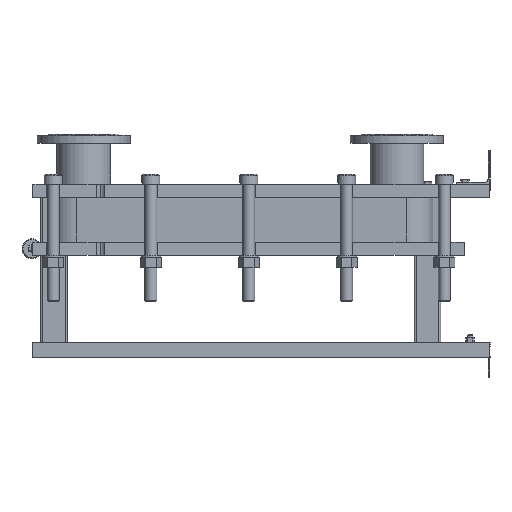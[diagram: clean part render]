
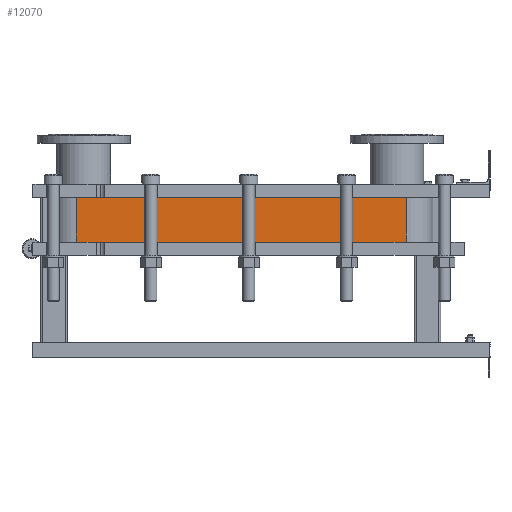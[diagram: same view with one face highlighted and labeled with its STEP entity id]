
A CAD part, left-side view. The second image highlights one B-rep face of the part: STEP entity #12070.
In plain terms, the highlighted planar face has unit normal (-1, 0, 0).
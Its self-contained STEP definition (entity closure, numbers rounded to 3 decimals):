
#1064=LINE('',#21140,#2164);
#1065=LINE('',#21144,#2165);
#1066=LINE('',#21146,#2166);
#1067=LINE('',#21147,#2167);
#2164=VECTOR('',#15790,10.);
#2165=VECTOR('',#15795,10.);
#2166=VECTOR('',#15796,10.);
#2167=VECTOR('',#15797,10.);
#3304=FACE_OUTER_BOUND('',#4091,.T.);
#4091=EDGE_LOOP('',(#9793,#9794,#9795,#9796));
#5677=VERTEX_POINT('',#21137);
#5678=VERTEX_POINT('',#21139);
#5679=VERTEX_POINT('',#21143);
#5680=VERTEX_POINT('',#21145);
#7118=EDGE_CURVE('',#5678,#5677,#1064,.T.);
#7120=EDGE_CURVE('',#5677,#5679,#1065,.T.);
#7121=EDGE_CURVE('',#5680,#5679,#1066,.T.);
#7122=EDGE_CURVE('',#5680,#5678,#1067,.T.);
#9793=ORIENTED_EDGE('',*,*,#7120,.T.);
#9794=ORIENTED_EDGE('',*,*,#7121,.F.);
#9795=ORIENTED_EDGE('',*,*,#7122,.T.);
#9796=ORIENTED_EDGE('',*,*,#7118,.T.);
#11441=PLANE('',#13191);
#12070=ADVANCED_FACE('',(#3304),#11441,.T.);
#13191=AXIS2_PLACEMENT_3D('',#21142,#15793,#15794);
#15790=DIRECTION('',(0.,0.,-1.));
#15793=DIRECTION('center_axis',(-1.,0.,0.));
#15794=DIRECTION('ref_axis',(0.,1.,0.));
#15795=DIRECTION('',(0.,-1.,0.));
#15796=DIRECTION('',(0.,0.,-1.));
#15797=DIRECTION('',(0.,1.,0.));
#21137=CARTESIAN_POINT('',(-248.152,1243.818,-134.55));
#21139=CARTESIAN_POINT('',(-248.152,1243.818,0.));
#21140=CARTESIAN_POINT('',(-248.152,1243.818,0.));
#21142=CARTESIAN_POINT('Origin',(-248.152,251.818,0.));
#21143=CARTESIAN_POINT('',(-248.152,251.818,-134.55));
#21144=CARTESIAN_POINT('',(-248.152,499.818,-134.55));
#21145=CARTESIAN_POINT('',(-248.152,251.818,0.));
#21146=CARTESIAN_POINT('',(-248.152,251.818,0.));
#21147=CARTESIAN_POINT('',(-248.152,251.818,0.));
